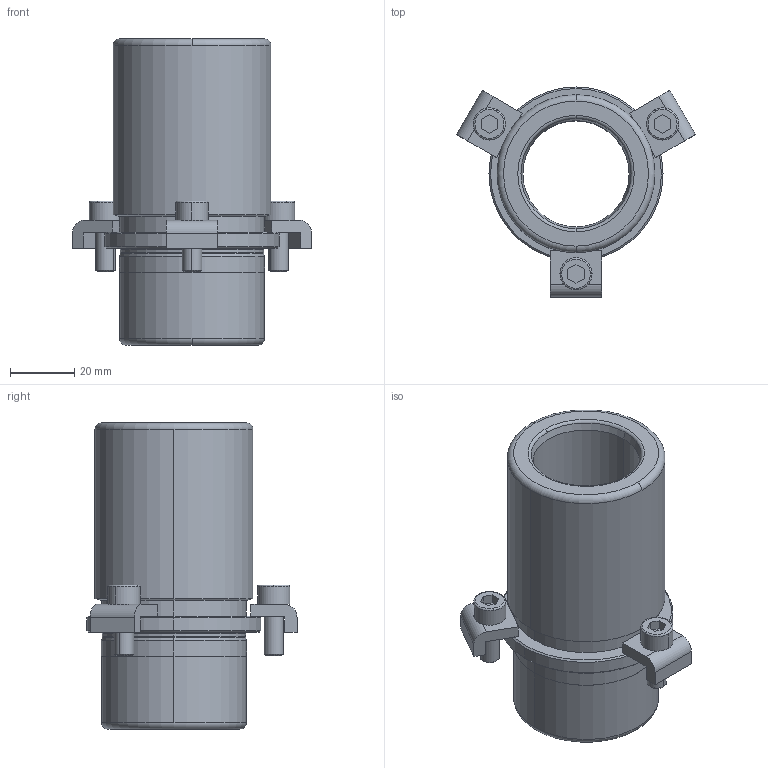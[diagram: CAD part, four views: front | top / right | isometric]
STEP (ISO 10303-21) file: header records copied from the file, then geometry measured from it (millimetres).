
FILE_DESCRIPTION((''),'2;1');
FILE_NAME('B40_025_065.stp','2009-01-05T16:26:47',(''),(''),'Mechanical Desktop 2009','Mechanical Desktop 2009',', , ');
FILE_SCHEMA(('CONFIG_CONTROL_DESIGN'));
Length unit declared in the file: millimetre
Products named in the file (2): Product; blmdl1
Assembly tree (1 placements, depth 2):
  Product
    blmdl1
Bounding box: 74.11 x 65.2 x 95 mm (x, y, z)
Volume: 94288.5 mm3; surface area: 31551.9 mm2
Topology: 7 solids, 7 shells, 141 faces, 362 edges, 238 vertices
Faces by surface type: plane 59, cylinder 38, cone 20, torus 14, bspline 10
Entity records: 4891 total; most frequent: CARTESIAN_POINT 1231, DIRECTION 794, ORIENTED_EDGE 724, EDGE_CURVE 362, AXIS2_PLACEMENT_3D 311, VERTEX_POINT 238, CIRCLE 178, VECTOR 172
